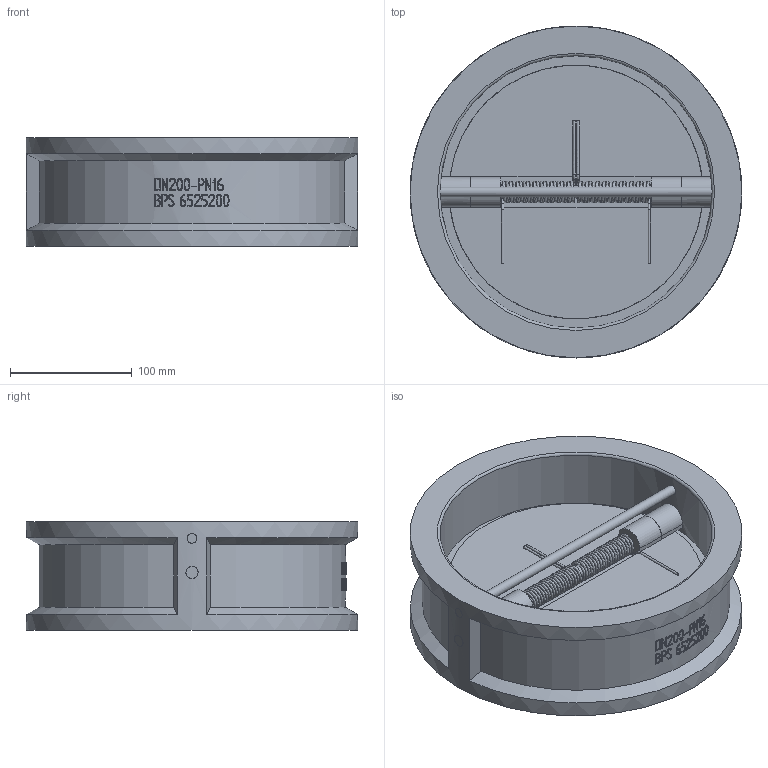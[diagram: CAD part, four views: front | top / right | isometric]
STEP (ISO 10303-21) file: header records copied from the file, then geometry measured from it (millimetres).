
FILE_DESCRIPTION( ( 'Unknown' ), '1' );
FILE_NAME( 'C:/Documents and Settings/Klaus/My Documents/Rootsi BPS 3D, Klaus/BPS 6525 double-door swing check valve/STEP/BPS6525200 double door swing check valve DN200.stp', 'Unknown', ( 'Unknown' ), ( 'Unknown' ), 'PSStep 10.1', 'Unknown', ' ' );
FILE_SCHEMA( ( 'AUTOMOTIVE_DESIGN { 1 0 10303 214 1 1 1 1 }' ) );
Length unit declared in the file: millimetre
Products named in the file (1): 1
Bounding box: 273 x 273 x 89 mm (x, y, z)
Volume: 2313093.9 mm3; surface area: 287381.8 mm2
Topology: 1 solids, 1 shells, 279 faces, 670 edges, 430 vertices
Faces by surface type: plane 111, bspline 93, cylinder 62, torus 7, cone 6
Full cylindrical faces by diameter (mm): 2 x6, 8 x1, 10 x3, 208.8 x1, 224 x1, 273 x1
Entity records: 27599 total; most frequent: CARTESIAN_POINT 20172, ORIENTED_EDGE 1244, DIRECTION 626, EDGE_CURVE 622, B_SPLINE_CURVE_WITH_KNOTS 452, VERTEX_POINT 422, EDGE_LOOP 372, FACE_OUTER_BOUND 317
